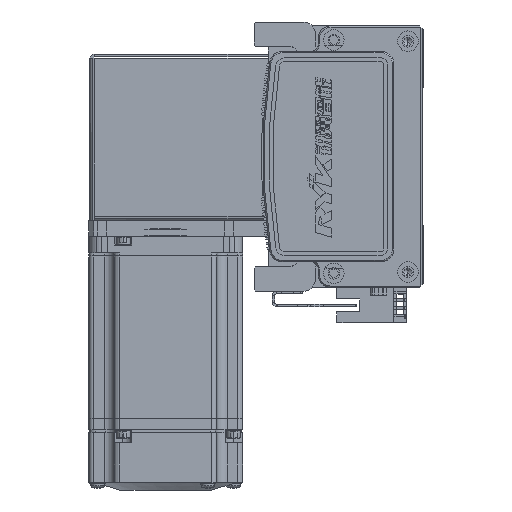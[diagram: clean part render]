
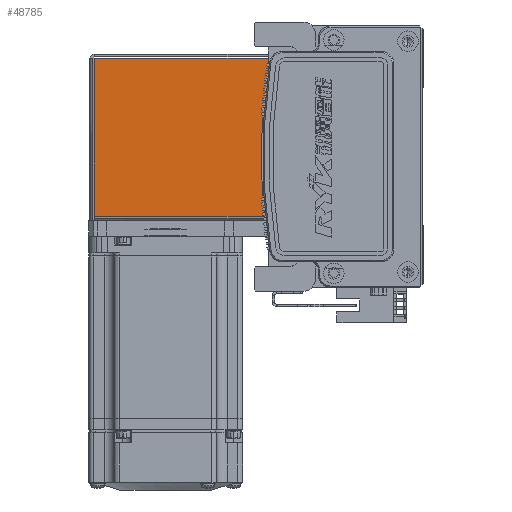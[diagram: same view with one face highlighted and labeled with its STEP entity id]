
A CAD part, left-side view. The second image highlights one B-rep face of the part: STEP entity #48785.
In plain terms, the highlighted planar face has unit normal (-1, 0, 0) as drawn and (0, 0, 1) by its records, which use the part's own axes.
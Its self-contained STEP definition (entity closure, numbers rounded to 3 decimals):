
#149 = CARTESIAN_POINT ( 'NONE',  ( -32.5, 0.737, 35. ) ) ;
#165 = VECTOR ( 'NONE', #66389, 1000. ) ;
#4816 = CARTESIAN_POINT ( 'NONE',  ( 0., 68.5, 35. ) ) ;
#5435 = DIRECTION ( 'NONE',  ( 0., 1., 0. ) ) ;
#7897 = EDGE_CURVE ( 'NONE', #21360, #40458, #66920, .T. ) ;
#8170 = ORIENTED_EDGE ( 'NONE', *, *, #56763, .F. ) ;
#9073 = EDGE_CURVE ( 'NONE', #51469, #21360, #66788, .T. ) ;
#10086 = AXIS2_PLACEMENT_3D ( 'NONE', #39109, #67571, #23173 ) ;
#11570 = ORIENTED_EDGE ( 'NONE', *, *, #9073, .T. ) ;
#13471 = CARTESIAN_POINT ( 'NONE',  ( 30.763, 68.5, 35. ) ) ;
#14532 = EDGE_CURVE ( 'NONE', #49493, #40458, #18911, .T. ) ;
#15603 = CARTESIAN_POINT ( 'NONE',  ( -30.793, 68.5, 35. ) ) ;
#17934 = VECTOR ( 'NONE', #61434, 1000. ) ;
#18494 = FACE_OUTER_BOUND ( 'NONE', #38605, .T. ) ;
#18911 = LINE ( 'NONE', #65388, #32025 ) ;
#20823 = DIRECTION ( 'NONE',  ( -1., 0., 0. ) ) ;
#21360 = VERTEX_POINT ( 'NONE', #13471 ) ;
#23173 = DIRECTION ( 'NONE',  ( -1., 0., 0. ) ) ;
#27213 = LINE ( 'NONE', #149, #165 ) ;
#28283 = PLANE ( 'NONE',  #10086 ) ;
#32025 = VECTOR ( 'NONE', #5435, 1000. ) ;
#38605 = EDGE_LOOP ( 'NONE', ( #11570, #63445, #45381, #8170 ) ) ;
#39109 = CARTESIAN_POINT ( 'NONE',  ( 0., 0., 35. ) ) ;
#40458 = VERTEX_POINT ( 'NONE', #15603 ) ;
#45381 = ORIENTED_EDGE ( 'NONE', *, *, #14532, .F. ) ;
#47371 = CARTESIAN_POINT ( 'NONE',  ( 30.763, 0.737, 35. ) ) ;
#48785 = ADVANCED_FACE ( 'NONE', ( #18494 ), #28283, .F. ) ;
#49493 = VERTEX_POINT ( 'NONE', #57683 ) ;
#51469 = VERTEX_POINT ( 'NONE', #47371 ) ;
#56763 = EDGE_CURVE ( 'NONE', #51469, #49493, #27213, .T. ) ;
#57683 = CARTESIAN_POINT ( 'NONE',  ( -30.793, 0.737, 35. ) ) ;
#61434 = DIRECTION ( 'NONE',  ( 0., 1., 0. ) ) ;
#63445 = ORIENTED_EDGE ( 'NONE', *, *, #7897, .T. ) ;
#65388 = CARTESIAN_POINT ( 'NONE',  ( -30.793, 0., 35. ) ) ;
#66389 = DIRECTION ( 'NONE',  ( -1., 0., 0. ) ) ;
#66529 = CARTESIAN_POINT ( 'NONE',  ( 30.763, 0.737, 35. ) ) ;
#66788 = LINE ( 'NONE', #66529, #17934 ) ;
#66920 = LINE ( 'NONE', #4816, #67846 ) ;
#67571 = DIRECTION ( 'NONE',  ( 0., 0., -1. ) ) ;
#67846 = VECTOR ( 'NONE', #20823, 1000. ) ;
